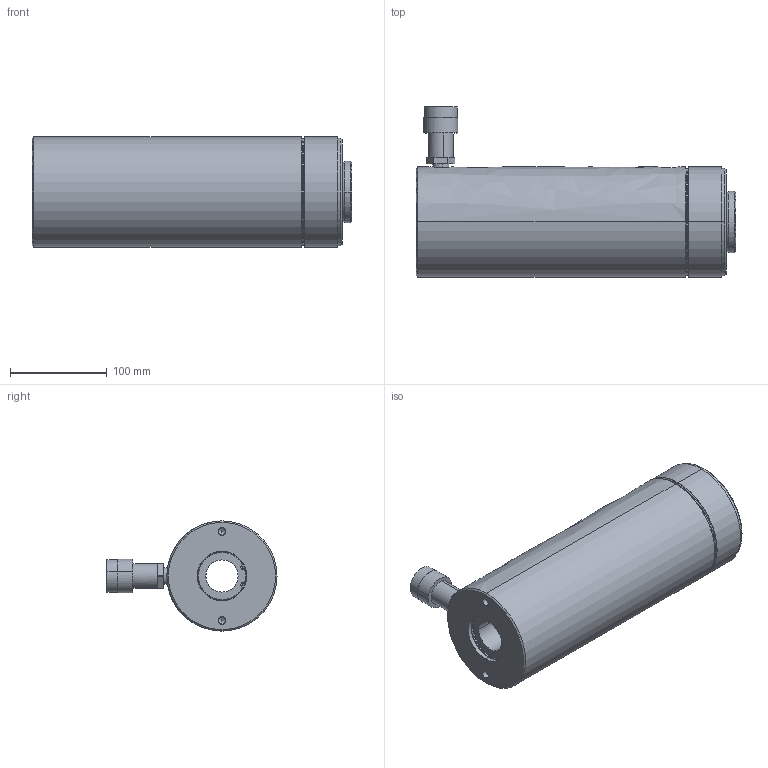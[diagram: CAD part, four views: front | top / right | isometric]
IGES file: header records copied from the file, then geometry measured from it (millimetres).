
Start section:  PTC IGES file: rch306.igs
Global section: file name: rch306.igs; native system: Creo Parametric by Parametric Technology Corporation; preprocessor: 2014200; author: mike.ward; organization: Unknown; date: 20150320.142327; units: inch
Bounding box: 330.57 x 175.9 x 113.92 mm (x, y, z)
Volume: 2293716.4 mm3; surface area: 459883.1 mm2
Topology: 1 solids, 3 shells, 374 faces, 811 edges, 474 vertices
Faces by surface type: revolution 309, bspline 65
